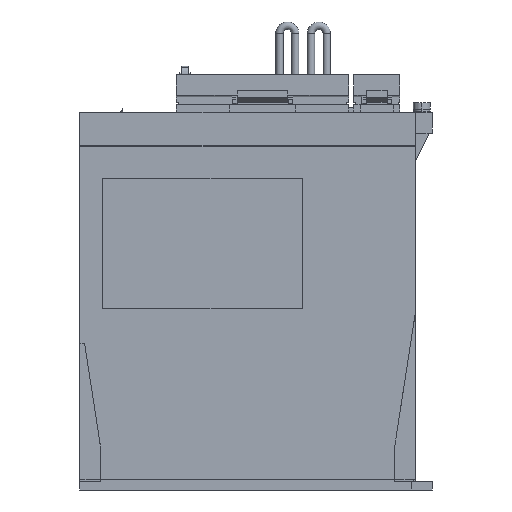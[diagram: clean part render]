
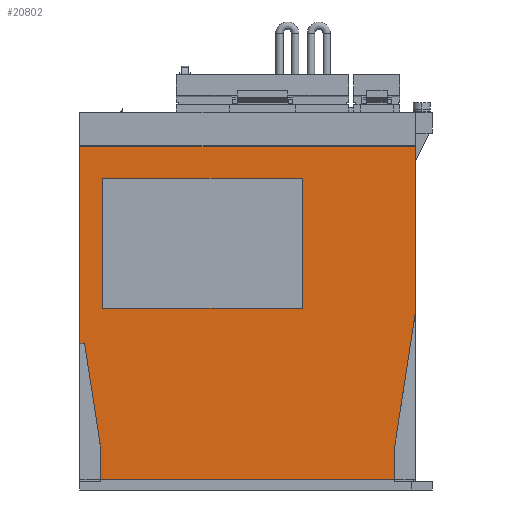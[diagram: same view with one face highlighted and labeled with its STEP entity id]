
A CAD part, left-side view. The second image highlights one B-rep face of the part: STEP entity #20802.
In plain terms, the highlighted planar face has unit normal (-1, 0, 0).
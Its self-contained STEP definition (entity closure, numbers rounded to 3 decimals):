
#20554 = EDGE_CURVE ( 'NONE', #20555, #20644, #55255, .T. ) ;
#20555 = VERTEX_POINT ( 'NONE', #55314 ) ;
#20644 = VERTEX_POINT ( 'NONE', #55419 ) ;
#20762 = VERTEX_POINT ( 'NONE', #55601 ) ;
#20764 = EDGE_CURVE ( 'NONE', #20762, #20765, #55662, .T. ) ;
#20765 = VERTEX_POINT ( 'NONE', #55658 ) ;
#20784 = EDGE_CURVE ( 'NONE', #20809, #20785, #52321, .T. ) ;
#20785 = VERTEX_POINT ( 'NONE', #55692 ) ;
#20786 = ORIENTED_EDGE ( 'NONE', *, *, #20787, .T. ) ;
#20787 = EDGE_CURVE ( 'NONE', #20785, #20788, #55691, .T. ) ;
#20788 = VERTEX_POINT ( 'NONE', #55687 ) ;
#20789 = ORIENTED_EDGE ( 'NONE', *, *, #20790, .F. ) ;
#20790 = EDGE_CURVE ( 'NONE', #20791, #20788, #55686, .T. ) ;
#20791 = VERTEX_POINT ( 'NONE', #55682 ) ;
#20792 = ORIENTED_EDGE ( 'NONE', *, *, #20793, .T. ) ;
#20793 = EDGE_CURVE ( 'NONE', #20791, #20765, #55681, .T. ) ;
#20794 = ORIENTED_EDGE ( 'NONE', *, *, #20764, .F. ) ;
#20795 = ORIENTED_EDGE ( 'NONE', *, *, #20796, .F. ) ;
#20796 = EDGE_CURVE ( 'NONE', #20555, #20762, #55677, .T. ) ;
#20802 = ADVANCED_FACE ( 'NONE', ( #55668, #55724 ), #55723, .F. ) ;
#20803 = EDGE_LOOP ( 'NONE', ( #20804, #20807, #20810, #20786, #20789, #20792, #20794, #20795, #20855 ) ) ;
#20804 = ORIENTED_EDGE ( 'NONE', *, *, #20805, .T. ) ;
#20805 = EDGE_CURVE ( 'NONE', #20644, #20806, #55718, .T. ) ;
#20806 = VERTEX_POINT ( 'NONE', #55714 ) ;
#20807 = ORIENTED_EDGE ( 'NONE', *, *, #20808, .F. ) ;
#20808 = EDGE_CURVE ( 'NONE', #20809, #20806, #55713, .T. ) ;
#20809 = VERTEX_POINT ( 'NONE', #55709 ) ;
#20810 = ORIENTED_EDGE ( 'NONE', *, *, #20784, .T. ) ;
#20855 = ORIENTED_EDGE ( 'NONE', *, *, #20554, .T. ) ;
#20856 = EDGE_LOOP ( 'NONE', ( #20857, #20861, #20864, #20867 ) ) ;
#20857 = ORIENTED_EDGE ( 'NONE', *, *, #20858, .F. ) ;
#20858 = EDGE_CURVE ( 'NONE', #20859, #20860, #55765, .T. ) ;
#20859 = VERTEX_POINT ( 'NONE', #55761 ) ;
#20860 = VERTEX_POINT ( 'NONE', #55760 ) ;
#20861 = ORIENTED_EDGE ( 'NONE', *, *, #20862, .F. ) ;
#20862 = EDGE_CURVE ( 'NONE', #20863, #20859, #55759, .T. ) ;
#20863 = VERTEX_POINT ( 'NONE', #55819 ) ;
#20864 = ORIENTED_EDGE ( 'NONE', *, *, #20865, .F. ) ;
#20865 = EDGE_CURVE ( 'NONE', #20866, #20863, #55818, .T. ) ;
#20866 = VERTEX_POINT ( 'NONE', #55814 ) ;
#20867 = ORIENTED_EDGE ( 'NONE', *, *, #20868, .F. ) ;
#20868 = EDGE_CURVE ( 'NONE', #20860, #20866, #55813, .T. ) ;
#52320 = CARTESIAN_POINT ( 'NONE',  ( -5., -5., 20. ) ) ;
#52321 = LINE ( 'NONE', #52320, #52584 ) ;
#52579 = DIRECTION ( 'NONE',  ( 0., 0., -1. ) ) ;
#52584 = VECTOR ( 'NONE', #52579, 1000. ) ;
#55255 = LINE ( 'NONE', #55317, #55316 ) ;
#55314 = CARTESIAN_POINT ( 'NONE',  ( -5., 5., 163.8 ) ) ;
#55315 = DIRECTION ( 'NONE',  ( 0., 0., -1. ) ) ;
#55316 = VECTOR ( 'NONE', #55315, 1000. ) ;
#55317 = CARTESIAN_POINT ( 'NONE',  ( -5., 5., 347.576 ) ) ;
#55419 = CARTESIAN_POINT ( 'NONE',  ( -5., 5., 70. ) ) ;
#55601 = CARTESIAN_POINT ( 'NONE',  ( -5., -155., 163.8 ) ) ;
#55658 = CARTESIAN_POINT ( 'NONE',  ( -5., -155., 85. ) ) ;
#55659 = DIRECTION ( 'NONE',  ( 0., 0., -1. ) ) ;
#55660 = VECTOR ( 'NONE', #55659, 1000. ) ;
#55661 = CARTESIAN_POINT ( 'NONE',  ( -5., -155., 347.576 ) ) ;
#55662 = LINE ( 'NONE', #55661, #55660 ) ;
#55668 = FACE_OUTER_BOUND ( 'NONE', #20803, .T. ) ;
#55674 = DIRECTION ( 'NONE',  ( 0., -1., 0. ) ) ;
#55675 = VECTOR ( 'NONE', #55674, 1000. ) ;
#55676 = CARTESIAN_POINT ( 'NONE',  ( -5., 5., 163.8 ) ) ;
#55677 = LINE ( 'NONE', #55676, #55675 ) ;
#55678 = DIRECTION ( 'NONE',  ( 0., -0.152, 0.988 ) ) ;
#55679 = VECTOR ( 'NONE', #55678, 1000. ) ;
#55680 = CARTESIAN_POINT ( 'NONE',  ( -5., -145., 20. ) ) ;
#55681 = LINE ( 'NONE', #55680, #55679 ) ;
#55682 = CARTESIAN_POINT ( 'NONE',  ( -5., -145., 20. ) ) ;
#55683 = DIRECTION ( 'NONE',  ( 0., 0., -1. ) ) ;
#55684 = VECTOR ( 'NONE', #55683, 1000. ) ;
#55685 = CARTESIAN_POINT ( 'NONE',  ( -5., -145., 20. ) ) ;
#55686 = LINE ( 'NONE', #55685, #55684 ) ;
#55687 = CARTESIAN_POINT ( 'NONE',  ( -5., -145., 5.2 ) ) ;
#55688 = DIRECTION ( 'NONE',  ( 0., -1., 0. ) ) ;
#55689 = VECTOR ( 'NONE', #55688, 1000. ) ;
#55690 = CARTESIAN_POINT ( 'NONE',  ( -5., -5., 5.2 ) ) ;
#55691 = LINE ( 'NONE', #55690, #55689 ) ;
#55692 = CARTESIAN_POINT ( 'NONE',  ( -5., -5., 5.2 ) ) ;
#55709 = CARTESIAN_POINT ( 'NONE',  ( -5., -5., 20. ) ) ;
#55710 = DIRECTION ( 'NONE',  ( 0., 0.152, 0.988 ) ) ;
#55711 = VECTOR ( 'NONE', #55710, 1000. ) ;
#55712 = CARTESIAN_POINT ( 'NONE',  ( -5., -5., 20. ) ) ;
#55713 = LINE ( 'NONE', #55712, #55711 ) ;
#55714 = CARTESIAN_POINT ( 'NONE',  ( -5., 2.692, 70. ) ) ;
#55715 = DIRECTION ( 'NONE',  ( 0., -1., 0. ) ) ;
#55716 = VECTOR ( 'NONE', #55715, 1000. ) ;
#55717 = CARTESIAN_POINT ( 'NONE',  ( -5., 5., 70. ) ) ;
#55718 = LINE ( 'NONE', #55717, #55716 ) ;
#55719 = DIRECTION ( 'NONE',  ( 0., 1., 0. ) ) ;
#55720 = DIRECTION ( 'NONE',  ( 1., 0., 0. ) ) ;
#55721 = CARTESIAN_POINT ( 'NONE',  ( -5., 5., 347.576 ) ) ;
#55722 = AXIS2_PLACEMENT_3D ( 'NONE', #55721, #55720, #55719 ) ;
#55723 = PLANE ( 'NONE',  #55722 ) ;
#55724 = FACE_BOUND ( 'NONE', #20856, .T. ) ;
#55758 = CARTESIAN_POINT ( 'NONE',  ( -5., -6., 86.6 ) ) ;
#55759 = LINE ( 'NONE', #55758, #55821 ) ;
#55760 = CARTESIAN_POINT ( 'NONE',  ( -5., -101., 148.6 ) ) ;
#55761 = CARTESIAN_POINT ( 'NONE',  ( -5., -101., 86.6 ) ) ;
#55762 = DIRECTION ( 'NONE',  ( 0., 0., 1. ) ) ;
#55763 = VECTOR ( 'NONE', #55762, 1000. ) ;
#55764 = CARTESIAN_POINT ( 'NONE',  ( -5., -101., 86.6 ) ) ;
#55765 = LINE ( 'NONE', #55764, #55763 ) ;
#55810 = DIRECTION ( 'NONE',  ( 0., 1., 0. ) ) ;
#55811 = VECTOR ( 'NONE', #55810, 1000. ) ;
#55812 = CARTESIAN_POINT ( 'NONE',  ( -5., -6., 148.6 ) ) ;
#55813 = LINE ( 'NONE', #55812, #55811 ) ;
#55814 = CARTESIAN_POINT ( 'NONE',  ( -5., -6., 148.6 ) ) ;
#55815 = DIRECTION ( 'NONE',  ( 0., 0., -1. ) ) ;
#55816 = VECTOR ( 'NONE', #55815, 1000. ) ;
#55817 = CARTESIAN_POINT ( 'NONE',  ( -5., -6., 86.6 ) ) ;
#55818 = LINE ( 'NONE', #55817, #55816 ) ;
#55819 = CARTESIAN_POINT ( 'NONE',  ( -5., -6., 86.6 ) ) ;
#55820 = DIRECTION ( 'NONE',  ( 0., -1., 0. ) ) ;
#55821 = VECTOR ( 'NONE', #55820, 1000. ) ;
